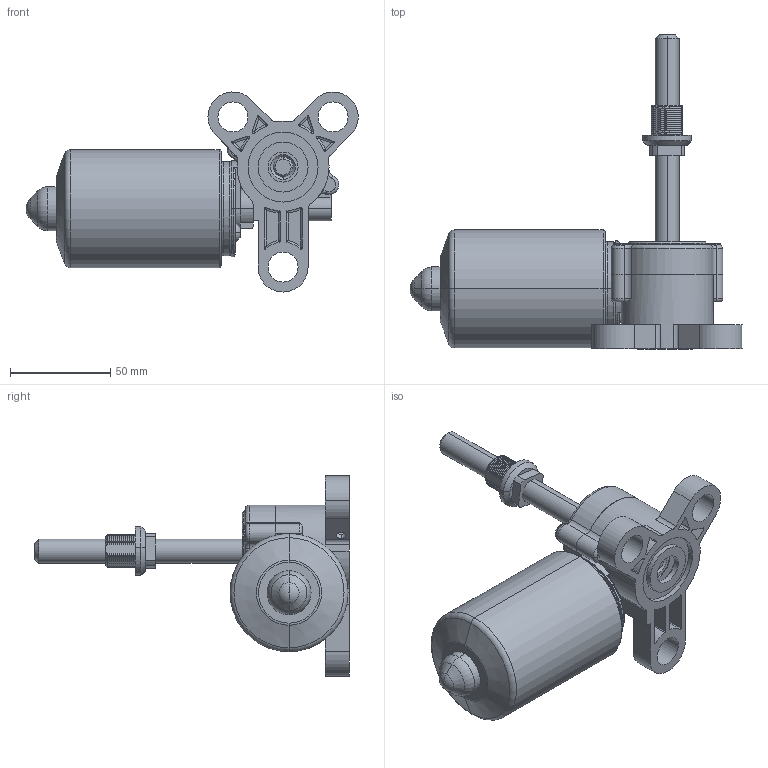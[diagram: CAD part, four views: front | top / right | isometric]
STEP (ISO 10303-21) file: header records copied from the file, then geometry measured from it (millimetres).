
FILE_DESCRIPTION (( 'STEP AP203' ), '1' );
FILE_NAME ('Antrieb DR HM D.STEP', '2006-10-30T08:29:57', ( 'Thomas Knaup' ), ( 'baumeister GmbH & Co KG' ), 'SwSTEP 2.0', 'SolidWorks 2005187', '' );
FILE_SCHEMA (( 'CONFIG_CONTROL_DESIGN' ));
Length unit declared in the file: millimetre
Products named in the file (11): Lager 6905_Standard; Lager 6003_Standard; Senkschraube_Standard; Antrieb DR HM D; motor_drhm_symb_Standard; motordeckel_Standard; gehäuse_drhm_symb_Standard; Schneckenrad_ohne Bremse; DIN 7380 Linsenkopfschraube_M5 x 10; Mutter 12x12_Gewinde 12x3; Spindel_Standard
Assembly tree (13 placements, depth 2):
  Antrieb DR HM D
    DIN 7380 Linsenkopfschraube_M5 x 10  x3
    Lager 6003_Standard
    Senkschraube_Standard  x2
    Lager 6905_Standard
    Mutter 12x12_Gewinde 12x3
    gehäuse_drhm_symb_Standard
    motor_drhm_symb_Standard
    Spindel_Standard
    Schneckenrad_ohne Bremse
    motordeckel_Standard
Bounding box: 165.98 x 157 x 100.01 mm (x, y, z)
Volume: 340808.1 mm3; surface area: 84346 mm2
Topology: 13 solids, 13 shells, 1215 faces, 3333 edges, 2151 vertices
Faces by surface type: cylinder 471, plane 335, bspline 314, torus 52, cone 37, sphere 6
Entity records: 73026 total; most frequent: CARTESIAN_POINT 44384, ORIENTED_EDGE 6402, DIRECTION 4874, EDGE_CURVE 3201, VERTEX_POINT 2081, AXIS2_PLACEMENT_3D 1861, EDGE_LOOP 1220, ADVANCED_FACE 1162
